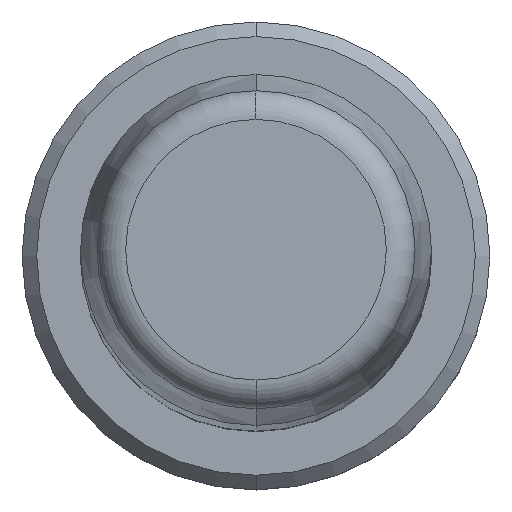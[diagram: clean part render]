
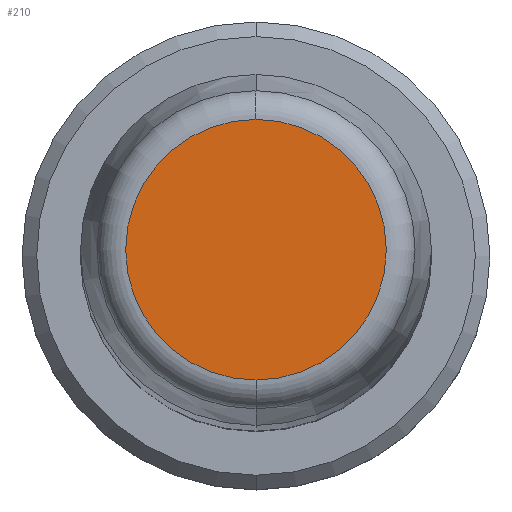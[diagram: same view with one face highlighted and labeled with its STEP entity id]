
A CAD part, top view. The second image highlights one B-rep face of the part: STEP entity #210.
In plain terms, the highlighted planar face has unit normal (0, 0, 1).
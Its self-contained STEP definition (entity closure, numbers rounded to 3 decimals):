
#1=CARTESIAN_POINT('',(0.,0.,125.));
#2=DIRECTION('',(0.,0.,-1.));
#3=DIRECTION('',(0.,-1.,0.));
#4=AXIS2_PLACEMENT_3D('',#1,#2,#3);
#6=CARTESIAN_POINT('',(0.,0.,125.));
#7=DIRECTION('',(0.,0.,-1.));
#8=DIRECTION('',(0.,1.,0.));
#9=AXIS2_PLACEMENT_3D('',#6,#7,#8);
#183=CARTESIAN_POINT('',(0.,-4.456,125.));
#184=CARTESIAN_POINT('',(0.,4.456,125.));
#185=VERTEX_POINT('',#183);
#186=VERTEX_POINT('',#184);
#199=CARTESIAN_POINT('',(0.,0.,125.));
#200=DIRECTION('',(0.,0.,1.));
#201=DIRECTION('',(0.,-1.,0.));
#202=AXIS2_PLACEMENT_3D('',#199,#200,#201);
#203=PLANE('',#202);
#205=ORIENTED_EDGE('',*,*,#204,.T.);
#207=ORIENTED_EDGE('',*,*,#206,.T.);
#208=EDGE_LOOP('',(#205,#207));
#209=FACE_OUTER_BOUND('',#208,.F.);
#210=ADVANCED_FACE('',(#209),#203,.T.);
#5=CIRCLE('',#4,4.456);
#10=CIRCLE('',#9,4.456);
#204=EDGE_CURVE('',#185,#186,#5,.T.);
#206=EDGE_CURVE('',#186,#185,#10,.T.);
